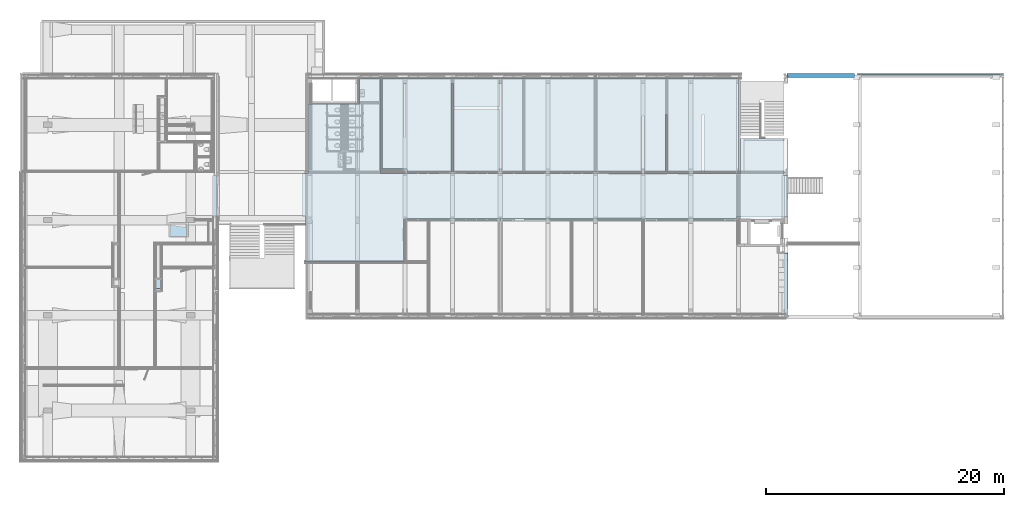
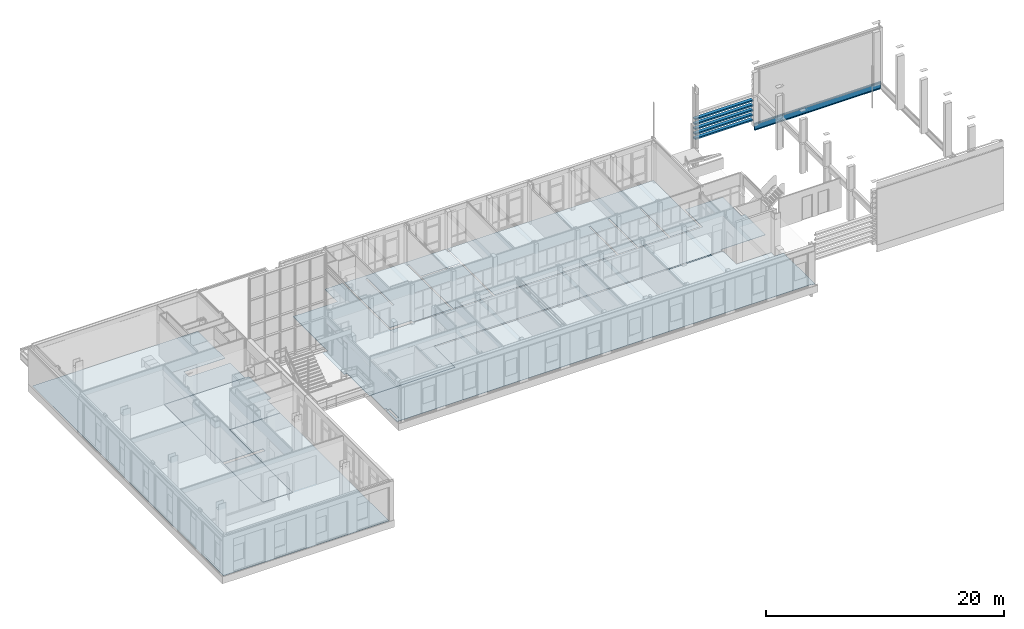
# One storey, part 22 of 94: 6 beams, 5 slabs, 4 openings.
"""IFC2X3 building model written with IfcOpenShell, lengths in millimetres."""

from ifc_helpers import new_model, entity, si_unit, converted_unit, derived_unit, money_unit, direction, frame, origin_with_axes, place, context, subcontext, project, spatial, faceted_brep, material, type_object, element, save


model = new_model("IFC2X3")

# Units and contexts
model_context = context("Model", 3, precision=0.01, world=origin_with_axes(), true_north=direction((0.0, 1.0)))
body_context = subcontext(model_context, "Body", "Model", "MODEL_VIEW")
ifc_project = project(units=[si_unit("LENGTHUNIT", "METRE", prefix="MILLI"), si_unit("AREAUNIT", "SQUARE_METRE"), si_unit("VOLUMEUNIT", "CUBIC_METRE"), converted_unit("PLANEANGLEUNIT", "DEGREE", entity("IfcPlaneAngleMeasure", 0.0174532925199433), si_unit("PLANEANGLEUNIT", "RADIAN"), dimensions=[0, 0, 0, 0, 0, 0, 0]), money_unit("EUR"), converted_unit("TIMEUNIT", "Year", entity("IfcTimeMeasure", 31557600.0), si_unit("TIMEUNIT", "SECOND"), dimensions=[0, 0, 1, 0, 0, 0, 0]), si_unit("MASSUNIT", "GRAM", prefix="KILO"), si_unit("THERMODYNAMICTEMPERATUREUNIT", "DEGREE_CELSIUS"), si_unit("LUMINOUSINTENSITYUNIT", "LUMEN"), si_unit("ENERGYUNIT", "JOULE", prefix="MEGA"), derived_unit("THERMALCONDUCTANCEUNIT", [(si_unit("POWERUNIT", "WATT"), 1), (si_unit("LENGTHUNIT", "METRE"), -1), (si_unit("THERMODYNAMICTEMPERATUREUNIT", "KELVIN"), -1)]), derived_unit("SPECIFICHEATCAPACITYUNIT", [(si_unit("ENERGYUNIT", "JOULE"), 1), (si_unit("MASSUNIT", "GRAM", prefix="KILO"), -1), (si_unit("THERMODYNAMICTEMPERATUREUNIT", "KELVIN"), -1)]), derived_unit("MASSDENSITYUNIT", [(si_unit("MASSUNIT", "GRAM", prefix="KILO"), 1), (si_unit("VOLUMEUNIT", "CUBIC_METRE"), -1)])], contexts=[model_context])

# Site, building, storey
site_placement = place(None, origin_with_axes())
site = spatial("IfcSite", under=ifc_project, at=site_placement, Name="<site naam>", CompositionType="ELEMENT")
building_placement = place(site_placement, origin_with_axes())
building = spatial("IfcBuilding", under=site, at=building_placement, Name="<Naam gebouw>", CompositionType="ELEMENT")
storey_placement = place(building_placement, frame((0.0, 0.0, 4250.0), z_axis=(0.0, 0.0, 1.0), x_axis=(1.0, 0.0, 0.0)))
storey = spatial("IfcBuildingStorey", under=building, at=storey_placement, Name="01 1e verdieping", CompositionType="ELEMENT", Elevation=4250.0)

# Beams
ifc_material_1 = material(Name="beton")
beam_type_1 = type_object("IfcBeamType", Name="beton 335 x 150", PredefinedType="BEAM")
beam_1_placement = place(storey_placement, frame((52105.00000000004, 20324.9999975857, 4625.0), z_axis=(0.0, 0.0, 1.0), x_axis=(0.0, -1.0, 0.0)))
element("IfcBeam", 1, at=beam_1_placement, inside=storey, type_object=beam_type_1, material=ifc_material_1, Name="41_Balk_beton", ObjectType="BEAM", context=body_context, shape_type="Brep", body=[
    faceted_brep([(217.3253485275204, 70.00000000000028, 150.0000000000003), (325.0000821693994, 70.00000000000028, 150.0000000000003), (325.0000821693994, 0.0, 150.0000000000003), (335.0000000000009, 0.0, 150.0000000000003), (335.0000000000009, 5640.499069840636, 150.0000000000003), (0.0, 5640.499069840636, 150.0000000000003), (0.0, 0.0, 150.0000000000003), (217.3253485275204, 0.0, 150.0000000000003), (325.0000821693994, 70.00000000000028, 0.0), (217.3253485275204, 70.00000000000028, 0.0), (325.0000821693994, 0.0, 0.0), (335.0000000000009, 0.0, 0.0), (335.0000000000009, 5640.499069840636, 0.0), (0.0, 5640.499069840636, 0.0), (0.0, 0.0, 0.0), (217.3253485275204, 0.0, 0.0)], [[[0, 1, 2, 3, 4, 5, 6, 7]], [[8, 1, 0, 9]], [[10, 2, 1, 8]], [[3, 2, 10, 11]], [[3, 11, 12, 4]], [[4, 12, 13, 5]], [[14, 6, 5, 13]], [[14, 15, 7, 6]], [[9, 0, 7, 15]], [[8, 9, 15, 14, 13, 12, 11, 10]]]),
])
for number, where, z_axis, x_axis, name in (
    (2, (52105.00000000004, 20324.9999975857, 3625.0), (0.0, 0.0, 1.0), (0.0, -1.0, 0.0), "41_Balk_beton"),
    (3, (52105.00000000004, 20324.9999975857, 3125.0), (0.0, 0.0, 1.0), (0.0, -1.0, 0.0), "41_Balk_beton"),
):
    element("IfcBeam", number, at=place(storey_placement, frame(where, z_axis=z_axis, x_axis=x_axis)), inside=storey, type_object=beam_type_1, material=ifc_material_1, Name=name, ObjectType="BEAM", context=body_context, shape_type="Brep", body=[
        faceted_brep([(217.3255014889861, 70.00002419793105, 150.0000000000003), (324.999975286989, 70.00002419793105, 150.0000000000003), (324.999975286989, 0.0, 150.0000000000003), (335.0000000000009, 0.0, 150.0000000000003), (335.0000000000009, 5640.499069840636, 150.0000000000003), (0.0, 5640.499069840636, 150.0000000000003), (0.0, 0.0, 150.0000000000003), (217.3255014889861, 0.0, 150.0000000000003), (324.999975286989, 70.00002419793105, 0.0), (217.3255014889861, 70.00002419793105, 0.0), (324.999975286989, 0.0, 0.0), (335.0000000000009, 0.0, 0.0), (335.0000000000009, 5640.499069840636, 0.0), (0.0, 5640.499069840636, 0.0), (0.0, 0.0, 0.0), (217.3255014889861, 0.0, 0.0)], [[[0, 1, 2, 3, 4, 5, 6, 7]], [[8, 1, 0, 9]], [[10, 2, 1, 8]], [[3, 2, 10, 11]], [[3, 11, 12, 4]], [[4, 12, 13, 5]], [[14, 6, 5, 13]], [[14, 15, 7, 6]], [[9, 0, 7, 15]], [[8, 9, 15, 14, 13, 12, 11, 10]]]),
    ])
beam_2_placement = place(storey_placement, frame((52105.00000000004, 20324.9999975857, 4125.0), z_axis=(0.0, 0.0, 1.0), x_axis=(0.0, -1.0, 0.0)))
element("IfcBeam", 4, at=beam_2_placement, inside=storey, type_object=beam_type_1, material=ifc_material_1, Name="41_Balk_beton", ObjectType="BEAM", context=body_context, shape_type="Brep", body=[
    faceted_brep([(217.3253485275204, 70.00000000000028, 150.0000000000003), (325.0000821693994, 70.00000000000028, 150.0000000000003), (325.0000821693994, 0.0, 150.0000000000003), (335.0000000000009, 0.0, 150.0000000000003), (335.0000000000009, 5640.499069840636, 150.0000000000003), (0.0, 5640.499069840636, 150.0000000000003), (0.0, 0.0, 150.0000000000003), (217.3253485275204, 0.0, 150.0000000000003), (325.0000821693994, 70.00000000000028, 125.0), (217.3253485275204, 70.00000000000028, 125.0), (325.0000821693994, 0.0, 125.0), (217.3253485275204, 0.0, 125.0), (0.0, 0.0, 0.0), (335.0000000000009, 0.0, 0.0), (335.0000000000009, 5640.499069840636, 0.0), (0.0, 5640.499069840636, 0.0)], [[[0, 1, 2, 3, 4, 5, 6, 7]], [[8, 1, 0, 9]], [[10, 2, 1, 8]], [[10, 11, 7, 6, 12, 13, 3, 2]], [[3, 13, 14, 4]], [[4, 14, 15, 5]], [[12, 6, 5, 15]], [[9, 0, 7, 11]], [[9, 11, 10, 8]], [[13, 12, 15, 14]]]),
])
beam_3_placement = place(storey_placement, frame((52105.00000000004, 20324.9999975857, 2625.0), z_axis=(0.0, 0.0, 1.0), x_axis=(0.0, -1.0, 0.0)))
element("IfcBeam", 5, at=beam_3_placement, inside=storey, type_object=beam_type_1, material=ifc_material_1, Name="41_Balk_beton", ObjectType="BEAM", context=body_context, shape_type="Brep", body=[
    faceted_brep([(217.3255014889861, 70.00002419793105, 150.0000000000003), (324.999975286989, 70.00002419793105, 150.0000000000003), (324.999975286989, 0.0, 150.0000000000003), (335.0000000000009, 0.0, 150.0000000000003), (335.0000000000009, 5640.499069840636, 150.0000000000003), (0.0, 5640.499069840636, 150.0000000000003), (0.0, 0.0, 150.0000000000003), (217.3255014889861, 0.0, 150.0000000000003), (324.999975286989, 70.00002419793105, 0.0), (217.3255014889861, 70.00002419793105, 0.0), (324.999975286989, 0.0, 0.0), (335.0000000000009, 0.0, 0.0), (335.0000000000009, 5640.499069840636, 0.0), (0.0, 5640.499069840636, 0.0), (0.0, 0.0, 0.0), (217.3255014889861, 0.0, 0.0)], [[[0, 1, 2, 3, 4, 5, 6, 7]], [[8, 1, 0, 9]], [[10, 2, 1, 8]], [[3, 2, 10, 11]], [[3, 11, 12, 4]], [[4, 12, 13, 5]], [[14, 6, 5, 13]], [[14, 15, 7, 6]], [[9, 0, 7, 15]], [[8, 9, 15, 14, 13, 12, 11, 10]]]),
])
ifc_material_2 = material(Name="beton_gewapend_prefab")
beam_type_2 = type_object("IfcBeamType", Name="Betonbanden 160 x 760", PredefinedType="BEAM")
beam_4_placement = place(storey_placement, frame((58000.00000000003, 20265.00000134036, 2145.0), z_axis=(0.0, 0.0, 1.0), x_axis=(0.0, -1.0, 0.0)))
element("IfcBeam", 6, at=beam_4_placement, inside=storey, type_object=beam_type_2, material=ifc_material_2, Name="41_Balk_Betonbanden", ObjectType="BEAM", context=body_context, shape_type="Brep", body=[
    faceted_brep([(-59.99999757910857, 0.0, -30.00000230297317), (-59.99999757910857, 12309.99999757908, -30.00000230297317), (-59.99999757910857, 12309.99999757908, -759.9999375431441), (-59.99999757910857, 0.0, -759.9999375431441), (60.00000030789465, 0.0, -30.00000230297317), (60.00000030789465, 12189.99999969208, -30.00000230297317), (60.00000030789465, 12189.99999969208, 0.0), (100.0000071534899, 12149.99999284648, 0.0), (100.0000071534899, 12149.99999284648, -100.0000001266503), (-4.298055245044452e-06, 12250.00000429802, -100.0000001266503), (-4.298055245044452e-06, 12250.00000429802, -690.0000385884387), (29.99999800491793, 12220.00000199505, -690.0000385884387), (29.99999800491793, 12220.00000199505, -660.0000280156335), (60.0000003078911, 12189.99999969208, -660.0000280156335), (60.0000003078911, 12189.99999969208, -759.9999375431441), (-4.298055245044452e-06, 12250.00000429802, -759.9999375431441), (-4.298055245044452e-06, 12250.00000429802, -730.0000145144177), (-29.99999527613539, 12279.99999527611, -730.0000145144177), (-29.99999527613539, 12279.99999527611, -759.9999375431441), (-29.99999527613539, 0.0, -759.9999375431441), (-29.99999527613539, 0.0, -730.0000145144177), (-4.298055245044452e-06, 0.0, -730.0000145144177), (-4.298055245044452e-06, 0.0, -759.9999375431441), (60.00000030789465, 0.0, -759.9999375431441), (60.00000030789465, 0.0, -660.0000280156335), (29.99999800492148, 0.0, -660.0000280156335), (29.99999800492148, 0.0, -690.0000385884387), (-4.298055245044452e-06, 0.0, -690.0000385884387), (-4.298051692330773e-06, 0.0, -100.0000001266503), (100.0000071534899, 0.0, -100.0000001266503), (100.0000071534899, 0.0, 0.0), (60.00000030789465, 0.0, 0.0)], [[[0, 1, 2, 3]], [[4, 5, 1, 0]], [[2, 1, 5, 6, 7, 8, 9, 10, 11, 12, 13, 14, 15, 16, 17, 18]], [[3, 2, 18, 19]], [[4, 0, 3, 19, 20, 21, 22, 23, 24, 25, 26, 27, 28, 29, 30, 31]], [[31, 6, 5, 4]], [[30, 7, 6, 31]], [[29, 8, 7, 30]], [[28, 9, 8, 29]], [[27, 10, 9, 28]], [[26, 11, 10, 27]], [[25, 12, 11, 26]], [[24, 13, 12, 25]], [[23, 14, 13, 24]], [[22, 15, 14, 23]], [[21, 16, 15, 22]], [[20, 17, 16, 21]], [[19, 18, 17, 20]]]),
])

# Slab, openings
ifc_material_3 = material(Name="isolatie_xps_zwevende_dekvloer")
slab_type_1 = type_object("IfcSlabType", Name="isolatie_xps_zwevende_dekvloer 30", PredefinedType="NOTDEFINED")
slab_1_placement = place(storey_placement, frame((11735.50000000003, 4524.999967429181, 0.0), z_axis=(0.0, 0.0, 1.0), x_axis=(1.0, 0.0, 0.0)))
slab_1 = element("IfcSlab", 7, at=slab_1_placement, inside=storey, type_object=slab_type_1, material=ifc_material_3, Name="23_Vloer_isolatie_xps_zwevende_dekvloer", PredefinedType="NOTDEFINED", context=body_context, shape_type="Brep", body=[
    faceted_brep([(187.0692695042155, -2377.009194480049, -30.00000000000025), (167.5223711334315, -2377.009194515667, -30.00000000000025), (167.5223711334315, -2377.009194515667, 0.0), (187.0692695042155, -2377.009194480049, 0.0), (0.0, -2609.512267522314, -30.00000000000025), (167.5223711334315, -2609.512267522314, -30.00000000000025), (187.0692751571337, -2629.059176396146, -30.00000000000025), (187.0223627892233, -2629.012263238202, -30.00000000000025), (0.0, -2629.012263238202, -30.00000000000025), (167.5223711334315, -2609.512267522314, 0.0), (0.0, -2609.512267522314, 0.0), (0.0, -2629.012263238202, 0.0), (187.0223627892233, -2629.012263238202, 0.0), (187.0692751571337, -2629.059176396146, 0.0)], [[[0, 1, 2, 3]], [[4, 5, 1, 0, 6, 7, 8]], [[5, 9, 2, 1]], [[2, 9, 10, 11, 12, 13, 3]], [[0, 3, 13, 6]], [[4, 10, 9, 5]], [[7, 6, 13, 12]], [[7, 12, 11, 8]], [[11, 10, 4, 8]]]),
    faceted_brep([(133.5223609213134, -2357.544208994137, 0.0), (168.4959369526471, -2357.544209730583, 0.0), (168.4959369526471, -2376.009317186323, 0.0), (188.0223640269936, -2376.009317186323, 0.0), (188.0223640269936, -2630.012268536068, 0.0), (0.0, -2630.012268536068, 0.0), (0.0, -4450.016858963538, 0.0), (40168.99999999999, -4450.016858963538, 0.0), (40168.99999999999, -4524.499967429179, 0.0), (40438.99999999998, -4524.499967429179, 0.0), (40438.99999999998, 47.5000325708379, 0.0), (40399.5, 47.5000325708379, 0.0), (40399.5, 160.0000325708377, 0.0), (40438.99999999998, 160.0000325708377, 0.0), (40438.99999999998, 703.5000311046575, 0.0), (39546.99999999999, 703.5000311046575, 0.0), (39546.99999999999, 1266.000031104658, 0.0), (36189.49999999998, 1266.000031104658, 0.0), (36189.49999999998, 3446.000032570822, 0.0), (8189.499999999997, 3446.000032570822, 0.0), (8189.499999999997, 0.0, 0.0), (0.0, 0.0, 0.0), (0.0, -2371.009317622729, 0.0), (133.5223609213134, -2371.009318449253, 0.0), (199.5000377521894, -2569.999989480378, 0.0), (414.5000377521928, -2569.999989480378, 0.0), (414.5000377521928, -3974.999901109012, 0.0), (199.5000377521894, -3974.999901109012, 0.0), (133.5223609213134, -2357.544208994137, -30.00000000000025), (168.4959369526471, -2357.544209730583, -30.00000000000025), (168.4959369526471, -2376.009317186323, -30.00000000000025), (188.0223640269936, -2376.009317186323, -30.00000000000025), (188.0223640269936, -2630.012268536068, -30.00000000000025), (0.0, -2630.012268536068, -30.00000000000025), (0.0, -4450.016858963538, -30.00000000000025), (40168.99999999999, -4450.016858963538, -30.00000000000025), (40168.99999999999, -4524.499967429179, -30.00000000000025), (40438.99999999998, -4524.499967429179, -30.00000000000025), (40438.99999999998, 47.5000325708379, -30.00000000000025), (40399.5, 47.5000325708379, -30.00000000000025), (40399.5, 160.0000325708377, -30.00000000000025), (40438.99999999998, 160.0000325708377, -30.00000000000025), (40438.99999999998, 703.5000311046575, -30.00000000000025), (39546.99999999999, 703.5000311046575, -30.00000000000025), (39546.99999999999, 1266.000031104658, -30.00000000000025), (36189.49999999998, 1266.000031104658, -30.00000000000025), (36189.49999999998, 3446.000032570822, -30.00000000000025), (8189.499999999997, 3446.000032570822, -30.00000000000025), (8189.499999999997, 0.0, -30.00000000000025), (0.0, 0.0, -30.00000000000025), (0.0, -2371.009317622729, -30.00000000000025), (133.5223609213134, -2371.009318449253, -29.99999999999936), (199.5000377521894, -2569.999989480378, -30.00000000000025), (414.5000377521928, -2569.999989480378, -30.00000000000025), (414.5000377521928, -3974.999901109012, -30.00000000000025), (199.5000377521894, -3974.999901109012, -30.00000000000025)], [[[0, 1, 2, 3, 4, 5, 6, 7, 8, 9, 10, 11, 12, 13, 14, 15, 16, 17, 18, 19, 20, 21, 22, 23], [24, 25, 26, 27]], [[0, 28, 29, 1]], [[30, 2, 1, 29]], [[31, 3, 2, 30]], [[32, 4, 3, 31]], [[5, 4, 32, 33]], [[6, 5, 33, 34]], [[35, 7, 6, 34]], [[36, 8, 7, 35]], [[37, 9, 8, 36]], [[9, 37, 38, 10]], [[38, 39, 11, 10]], [[40, 12, 11, 39]], [[12, 40, 41, 13]], [[42, 14, 13, 41]], [[43, 15, 14, 42]], [[44, 16, 15, 43]], [[45, 17, 16, 44]], [[46, 18, 17, 45]], [[47, 19, 18, 46]], [[48, 20, 19, 47]], [[49, 21, 20, 48]], [[49, 50, 22, 21]], [[50, 51, 23, 22]], [[28, 0, 23, 51]], [[24, 52, 53, 25]], [[53, 54, 26, 25]], [[55, 27, 26, 54]], [[55, 52, 24, 27]], [[29, 28, 51, 50, 49, 48, 47, 46, 45, 44, 43, 42, 41, 40, 39, 38, 37, 36, 35, 34, 33, 32, 31, 30], [55, 54, 53, 52]]]),
])
opening_1_placement = place(slab_1_placement, frame((-11735.50000000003, -4524.999967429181, -4250.0), z_axis=(0.0, 0.0, 1.0), x_axis=(1.0, 0.0, 0.0)))
element("IfcOpeningElement", 8, at=opening_1_placement, cuts=slab_1, Name="23_Opening_", context=body_context, shape_type="Brep", body=[
    faceted_brep([(12175.00000000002, 17899.99999999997, 4189.999999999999), (13075.00000000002, 17899.99999999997, 4189.999999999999), (13075.00000000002, 17899.99999999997, 4279.999999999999), (12175.00000000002, 17899.99999999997, 4279.999999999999), (12175.00000000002, 19399.99999999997, 4189.999999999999), (13075.00000000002, 19399.99999999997, 4189.999999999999), (13075.00000000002, 19399.99999999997, 4279.999999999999), (12175.00000000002, 19399.99999999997, 4279.999999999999)], [[[0, 1, 2, 3]], [[0, 4, 5, 1]], [[1, 5, 6, 2]], [[3, 2, 6, 7]], [[4, 0, 3, 7]], [[5, 4, 7, 6]]]),
])
opening_2_placement = place(slab_1_placement, frame((-11735.50000000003, -4524.999967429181, -4250.0), z_axis=(0.0, 0.0, 1.0), x_axis=(1.0, 0.0, 0.0)))
element("IfcOpeningElement", 9, at=opening_2_placement, cuts=slab_1, Name="23_Opening_", context=body_context, shape_type="Brep", body=[
    faceted_brep([(13675.00355938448, 17899.99999999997, 4189.999999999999), (14575.00355938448, 17899.99999999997, 4189.999999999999), (14575.00355938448, 17899.99999999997, 4279.999999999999), (13675.00355938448, 17899.99999999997, 4279.999999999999), (13675.00355938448, 19399.99999999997, 4189.999999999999), (14575.00355938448, 19399.99999999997, 4189.999999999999), (14575.00355938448, 19399.99999999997, 4279.999999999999), (13675.00355938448, 19399.99999999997, 4279.999999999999)], [[[0, 1, 2, 3]], [[0, 4, 5, 1]], [[1, 5, 6, 2]], [[3, 2, 6, 7]], [[4, 0, 3, 7]], [[5, 4, 7, 6]]]),
])

# Slabs
slab_2_placement = place(storey_placement, frame((18074.93840291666, 19924.99999617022, -30.00000000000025), z_axis=(0.0, 0.0, 1.0), x_axis=(1.0, 0.0, 0.0)))
element("IfcSlab", 10, at=slab_2_placement, inside=storey, type_object=slab_type_1, material=ifc_material_3, Name="23_Vloer_isolatie_xps_zwevende_dekvloer", PredefinedType="NOTDEFINED", context=body_context, shape_type="Brep", body=[
    faceted_brep([(9850.06159708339, -7895.999996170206, 0.0), (9850.06159708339, -2587.16937128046, 0.0), (9850.06159708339, -2587.16937128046, 30.00000000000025), (9850.06159708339, -7895.999996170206, 30.00000000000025), (6000.061597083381, -7895.999996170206, 0.0), (6000.061597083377, -2587.16937128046, 0.0), (6000.061597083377, -2587.16937128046, 30.00000000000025), (6000.061597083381, -7895.999996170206, 30.00000000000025)], [[[0, 1, 2, 3]], [[4, 5, 1, 0]], [[5, 6, 2, 1]], [[3, 2, 6, 7]], [[3, 7, 4, 0]], [[7, 6, 5, 4]]]),
    faceted_brep([(10000.06159708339, -7895.999996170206, 30.00000000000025), (21850.06159708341, -7895.999996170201, 30.00000000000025), (21850.06159708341, -3200.050164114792, 30.00000000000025), (22000.06159708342, -3200.050164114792, 30.00000000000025), (22000.06159708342, -7895.999996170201, 30.00000000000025), (23800.06159708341, -7895.999996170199, 30.00000000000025), (23800.06159708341, -3050.050161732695, 30.00000000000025), (23950.06159708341, -3050.050161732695, 30.00000000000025), (23950.06159708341, -7895.999996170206, 30.00000000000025), (26870.06162211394, -7895.999996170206, 30.00000000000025), (26870.06162211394, -3050.050144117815, 30.00000000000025), (27020.06162211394, -3050.050144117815, 30.00000000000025), (27020.06162211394, -7895.999996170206, 30.00000000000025), (29940.06159708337, -7895.999996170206, 30.00000000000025), (29940.06159708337, -46.99999617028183, 30.00000000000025), (10000.06159708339, -46.99999617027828, 30.00000000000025), (10000.06159708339, -7895.999996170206, 0.0), (21850.06159708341, -7895.999996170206, 0.0), (21850.06159708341, -3200.050164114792, 0.0), (22000.06159708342, -3200.050164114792, 0.0), (22000.06159708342, -7895.999996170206, 0.0), (23800.06159708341, -7895.999996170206, 0.0), (23800.06159708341, -3050.050155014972, 0.0), (23950.06159708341, -3050.050155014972, 0.0), (23950.06159708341, -7895.999996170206, 0.0), (26870.06162211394, -7895.999996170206, 0.0), (26870.06162211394, -3050.050140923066, 0.0), (27020.06162211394, -3050.050140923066, 0.0), (27020.06162211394, -7895.999996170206, 0.0), (29940.06159708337, -7895.999996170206, 0.0), (29940.06159708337, -46.99999617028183, 0.0), (10000.06159708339, -46.99999617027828, 0.0)], [[[0, 1, 2, 3, 4, 5, 6, 7, 8, 9, 10, 11, 12, 13, 14, 15]], [[16, 17, 1, 0]], [[18, 2, 1, 17]], [[19, 3, 2, 18]], [[20, 4, 3, 19]], [[5, 4, 20, 21]], [[22, 6, 5, 21]], [[23, 7, 6, 22]], [[24, 8, 7, 23]], [[24, 25, 9, 8]], [[26, 10, 9, 25]], [[26, 27, 11, 10]], [[28, 12, 11, 27]], [[13, 12, 28, 29]], [[29, 30, 14, 13]], [[31, 15, 14, 30]], [[0, 15, 31, 16]], [[19, 18, 17, 16, 31, 30, 29, 28, 27, 26, 25, 24, 23, 22, 21, 20]]]),
    faceted_brep([(9850.06159708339, -2437.169371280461, 0.0), (9850.06159708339, -46.99999617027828, 0.0), (9850.06159708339, -46.99999617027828, 30.00000000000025), (9850.06159708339, -2437.169371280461, 30.00000000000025), (0.0, -7649.999996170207, 0.0), (0.0, -46.99999617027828, 0.0), (6000.061597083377, -2437.169371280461, 0.0), (6000.061597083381, -474.9999961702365, 0.0), (5850.061597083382, -474.9999961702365, 0.0), (5850.061597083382, -7895.999996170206, 0.0), (2100.061597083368, -7895.999996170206, 0.0), (2100.061597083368, -7649.999996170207, 0.0), (1825.061596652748, -474.9999961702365, 0.0), (1825.061596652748, -4939.977004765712, 0.0), (1975.061596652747, -4939.977004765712, 0.0), (1975.061596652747, -474.9999961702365, 0.0), (0.0, -46.99999617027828, 30.00000000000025), (0.0, -7649.999996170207, 30.00000000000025), (2100.061597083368, -7649.999996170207, 30.00000000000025), (2100.061597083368, -7895.999996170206, 30.00000000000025), (5850.061597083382, -7895.999996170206, 30.00000000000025), (5850.061597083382, -474.9999961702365, 30.00000000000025), (6000.061597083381, -474.9999961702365, 30.00000000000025), (6000.061597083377, -2437.169371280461, 30.00000000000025), (1975.061596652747, -4939.977004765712, 30.00000000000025), (1825.061596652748, -4939.977004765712, 30.00000000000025), (1825.061596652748, -474.9999961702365, 30.00000000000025), (1975.061596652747, -474.9999961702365, 30.00000000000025)], [[[0, 1, 2, 3]], [[4, 5, 1, 0, 6, 7, 8, 9, 10, 11], [12, 13, 14, 15]], [[5, 16, 2, 1]], [[3, 2, 16, 17, 18, 19, 20, 21, 22, 23], [24, 25, 26, 27]], [[6, 0, 3, 23]], [[17, 16, 5, 4]], [[7, 6, 23, 22]], [[7, 22, 21, 8]], [[8, 21, 20, 9]], [[10, 9, 20, 19]], [[19, 18, 11, 10]], [[18, 17, 4, 11]], [[12, 26, 25, 13]], [[14, 13, 25, 24]], [[14, 24, 27, 15]], [[15, 27, 26, 12]]]),
])
slab_3_placement = place(storey_placement, frame((3884.044439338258, 19877.99999999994, 0.0), z_axis=(0.0, 0.0, 1.0), x_axis=(1.0, 0.0, 0.0)))
element("IfcSlab", 11, at=slab_3_placement, inside=storey, type_object=slab_type_1, material=ifc_material_3, Name="23_Vloer_isolatie_xps_zwevende_dekvloer", PredefinedType="NOTDEFINED", context=body_context, shape_type="Brep", body=[
    faceted_brep([(0.0, -13822.99999314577, 0.0), (-4934.044439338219, -13822.99999314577, 0.0), (-4934.044439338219, -17646.00087268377, 6.821796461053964e-07), (-3884.044518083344, -17646.00087268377, 9.313234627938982e-07), (-3884.044518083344, -17958.50087268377, 9.313234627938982e-07), (-4934.044439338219, -17958.50087268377, 6.821796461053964e-07), (-4934.044439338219, -24404.56515943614, 0.0), (-7809.04443933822, -24404.56515943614, 0.0), (-7809.04443933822, -7877.999999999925, 0.0), (0.0, -7877.999999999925, 0.0), (0.0, -5390.500030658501, 0.0), (-3984.065703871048, -5390.500030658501, 0.0), (-3984.065703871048, -4565.500005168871, 0.0), (0.0, -4565.500005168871, 0.0), (0.0, 0.0, 0.0), (-16049.04443218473, 0.0, 0.0), (-16049.04443218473, -32045.0317121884, 0.0), (0.0, -32045.0317121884, 0.0), (0.0, -13822.99999314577, -30.00000000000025), (-4934.044439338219, -13822.99999314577, -30.00000000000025), (-4934.044439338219, -17646.00087268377, -30.00000000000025), (-3884.044518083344, -17646.00087268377, -30.00000000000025), (-3884.044518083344, -17958.50087268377, -30.00000000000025), (-4934.044439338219, -17958.50087268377, -30.00000000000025), (-4934.044439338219, -24404.56515943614, -30.00000000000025), (-7809.04443933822, -24404.56515943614, -30.00000000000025), (-7809.04443933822, -7877.999999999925, -30.00000000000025), (0.0, -7877.999999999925, -30.00000000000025), (0.0, -5390.500030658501, -30.00000000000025), (-3984.065703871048, -5390.500030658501, -30.00000000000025), (-3984.065703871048, -4565.500005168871, -30.00000000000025), (0.0, -4565.500005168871, -30.00000000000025), (0.0, 0.0, -30.00000000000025), (-16049.04443218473, 0.0, -30.00000000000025), (-16049.04443218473, -32045.0317121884, -30.00000000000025), (0.0, -32045.0317121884, -30.00000000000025)], [[[0, 1, 2, 3, 4, 5, 6, 7, 8, 9, 10, 11, 12, 13, 14, 15, 16, 17]], [[18, 19, 1, 0]], [[2, 1, 19, 20]], [[2, 20, 21, 3]], [[21, 22, 4, 3]], [[4, 22, 23, 5]], [[23, 24, 6, 5]], [[24, 25, 7, 6]], [[25, 26, 8, 7]], [[26, 27, 9, 8]], [[27, 28, 10, 9]], [[28, 29, 11, 10]], [[29, 30, 12, 11]], [[30, 31, 13, 12]], [[31, 32, 14, 13]], [[32, 33, 15, 14]], [[33, 34, 16, 15]], [[34, 35, 17, 16]], [[35, 18, 0, 17]], [[24, 23, 22, 21, 20, 19, 18, 35, 34, 33, 32, 31, 30, 29, 28, 27, 26, 25]]]),
])

# Slab, openings
ifc_material_4 = material(Name="zandcementdeklvoer")
slab_type_2 = type_object("IfcSlabType", Name="zandcementdeklvoer 30", PredefinedType="NOTDEFINED")
slab_4_placement = place(storey_placement, frame((4207.073924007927, 11994.60127102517, -30.00000000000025), z_axis=(0.0, 0.0, 1.0), x_axis=(1.0, 0.0, 0.0)))
slab_4 = element("IfcSlab", 12, at=slab_4_placement, inside=storey, type_object=slab_type_2, material=ifc_material_4, Name="23_Vloer_zandcementdeklvoer", PredefinedType="NOTDEFINED", context=body_context, shape_type="Brep", body=[
    faceted_brep([(0.0, 0.0, 30.00000000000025), (-8132.072546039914, 0.0, 30.00000000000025), (-8132.073924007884, -9775.102143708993, 30.00000000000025), (-5257.073924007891, -9775.102143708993, 30.00000068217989), (-5257.073924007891, -5925.000000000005, 30.00000000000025), (-323.0294846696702, -5925.000000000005, 30.00000000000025), (-323.0294846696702, -3719.438644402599, 30.00000000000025), (72.97051533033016, -3719.438644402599, 30.00000000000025), (72.97051533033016, -74.99999999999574, 30.00000000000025), (0.0, -74.99999999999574, 30.00000000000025), (-8132.072546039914, 0.0, 0.0), (0.0, 0.0, 0.0), (-8132.073924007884, -9775.102143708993, 0.0), (-5257.073924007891, -9775.102143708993, 0.0), (-5257.073924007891, -5925.000000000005, 0.0), (-323.0294846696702, -5925.000000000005, 0.0), (-323.0294846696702, -3719.438644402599, 0.0), (72.97051533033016, -3719.438644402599, 0.0), (72.97051533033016, -74.99999999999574, 0.0), (0.0, -74.99999999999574, 0.0)], [[[0, 1, 2, 3, 4, 5, 6, 7, 8, 9]], [[10, 1, 0, 11]], [[1, 10, 12, 2]], [[2, 12, 13, 3]], [[14, 4, 3, 13]], [[15, 5, 4, 14]], [[16, 6, 5, 15]], [[17, 7, 6, 16]], [[18, 8, 7, 17]], [[19, 9, 8, 18]], [[11, 0, 9, 19]], [[15, 14, 13, 12, 10, 11, 19, 18, 17, 16]]]),
    faceted_brep([(-5257.073924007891, -16526.56515943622, 0.0), (-5257.073924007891, -10075.10214370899, 0.0), (-5257.073924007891, -10075.10214370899, 30.00000068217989), (-5257.073924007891, -16526.56515943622, 30.00000000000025), (-8132.072546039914, -16526.56515943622, 0.0), (-8132.073924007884, -10075.10214370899, 0.0), (-8132.073924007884, -10075.10214370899, 30.00000000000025), (-8132.072546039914, -16526.56515943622, 30.00000000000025)], [[[0, 1, 2, 3]], [[4, 5, 1, 0]], [[5, 6, 2, 1]], [[3, 2, 6, 7]], [[3, 7, 4, 0]], [[7, 6, 5, 4]]]),
])
opening_3_placement = place(slab_4_placement, frame((-4207.073924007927, -11994.60127102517, -4220.0), z_axis=(0.0, 0.0, 1.0), x_axis=(1.0, 0.0, 0.0)))
element("IfcOpeningElement", 13, at=opening_3_placement, cuts=slab_4, Name="23_Opening_", context=body_context, shape_type="Brep", body=[
    faceted_brep([(308.7943528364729, 14594.60124710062, 4189.999999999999), (1910.529484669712, 14594.60124710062, 4189.999999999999), (1910.529484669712, 14594.60124710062, 4279.999999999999), (308.7943528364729, 14594.60124710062, 4279.999999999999), (308.7943528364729, 15194.60126585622, 4189.999999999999), (1910.529484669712, 15194.60126585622, 4189.999999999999), (1910.529484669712, 15194.60126585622, 4279.999999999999), (308.7943528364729, 15194.60126585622, 4279.999999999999)], [[[0, 1, 2, 3]], [[0, 4, 5, 1]], [[1, 5, 6, 2]], [[3, 2, 6, 7]], [[4, 0, 3, 7]], [[5, 4, 7, 6]]]),
])
opening_4_placement = place(slab_4_placement, frame((-4207.073924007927, -11994.60127102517, -4220.0), z_axis=(0.0, 0.0, 1.0), x_axis=(1.0, 0.0, 0.0)))
element("IfcOpeningElement", 14, at=opening_4_placement, cuts=slab_4, Name="23_Opening_", context=body_context, shape_type="Brep", body=[
    faceted_brep([(2710.529484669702, 14594.60124710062, 4189.999999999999), (4310.573952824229, 14594.60124710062, 4189.999999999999), (4310.573952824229, 14594.60124710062, 4279.999999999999), (2710.529484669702, 14594.60124710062, 4279.999999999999), (2710.529484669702, 15194.60126585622, 4189.999999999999), (4310.573952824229, 15194.60126585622, 4189.999999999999), (4310.573952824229, 15194.60126585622, 4279.999999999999), (2710.529484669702, 15194.60126585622, 4279.999999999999)], [[[0, 1, 2, 3]], [[0, 4, 5, 1]], [[1, 5, 6, 2]], [[3, 2, 6, 7]], [[4, 0, 3, 7]], [[5, 4, 7, 6]]]),
])

# Slab
slab_5_placement = place(storey_placement, frame((11354.47051533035, 11925.00000000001, -30.00000000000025), z_axis=(0.0, 0.0, 1.0), x_axis=(1.0, 0.0, 0.0)))
element("IfcSlab", 15, at=slab_5_placement, inside=storey, type_object=slab_type_2, material=ifc_material_4, Name="23_Vloer_zandcementdeklvoer", PredefinedType="NOTDEFINED", context=body_context, shape_type="Brep", body=[
    faceted_brep([(0.0, -3644.601271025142, 30.00000000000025), (0.0, 0.0, 30.00000000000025), (0.0, 0.0, 0.0), (0.0, -3644.601271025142, 0.0), (510.0000000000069, 5824.999999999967, 30.00000000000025), (510.0000000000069, 0.0, 30.00000000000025), (270.0000000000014, -3644.601271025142, 30.00000000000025), (270.0000000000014, -7400.000032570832, 30.00000000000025), (8570.529484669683, -7400.000032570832, 30.00000000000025), (8570.529484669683, -3850.000000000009, 30.00000000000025), (36470.52948466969, -3850.000000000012, 30.00000000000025), (36470.52948466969, -3649.999999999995, 30.00000000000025), (40819.95950558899, -3649.999999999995, 30.00000000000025), (40819.95950558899, -200.0000000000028, 30.00000000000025), (40470.52948466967, -200.0000000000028, 30.00000000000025), (40470.52948466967, 2924.499999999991, 30.00000000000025), (36820.10733893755, 2924.499999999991, 30.00000000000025), (36820.10733893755, 0.0, 30.00000000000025), (6570.47148321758, 0.0, 30.00000000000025), (6570.47148321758, 7958.999999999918, 30.00000000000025), (4820.529484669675, 7958.999999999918, 30.00000000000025), (4820.529484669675, 5824.999999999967, 30.00000000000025), (510.0000000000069, 0.0, 0.0), (270.0000000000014, -3644.601271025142, 0.0), (510.0000000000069, 5824.999999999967, 0.0), (4820.529484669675, 5824.999999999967, 0.0), (4820.529484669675, 7958.999999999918, 0.0), (6570.47148321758, 7958.999999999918, 0.0), (6570.47148321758, 0.0, 0.0), (36820.10733893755, 0.0, 0.0), (36820.10733893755, 2924.499999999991, 0.0), (40470.52948466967, 2924.499999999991, 0.0), (40470.52948466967, -200.0000000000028, 0.0), (40819.95950558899, -200.0000000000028, 0.0), (40819.95950558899, -3649.999999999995, 0.0), (36470.52948466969, -3649.999999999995, 0.0), (36470.52948466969, -3850.000000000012, 0.0), (8570.529484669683, -3850.000000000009, 0.0), (8570.529484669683, -7400.000032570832, 0.0), (270.0000000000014, -7400.000032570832, 0.0)], [[[0, 1, 2, 3]], [[4, 5, 1, 0, 6, 7, 8, 9, 10, 11, 12, 13, 14, 15, 16, 17, 18, 19, 20, 21]], [[1, 5, 22, 2]], [[23, 3, 2, 22, 24, 25, 26, 27, 28, 29, 30, 31, 32, 33, 34, 35, 36, 37, 38, 39]], [[6, 0, 3, 23]], [[5, 4, 24, 22]], [[7, 6, 23, 39]], [[8, 7, 39, 38]], [[9, 8, 38, 37]], [[10, 9, 37, 36]], [[11, 10, 36, 35]], [[12, 11, 35, 34]], [[13, 12, 34, 33]], [[14, 13, 33, 32]], [[15, 14, 32, 31]], [[16, 15, 31, 30]], [[17, 16, 30, 29]], [[18, 17, 29, 28]], [[19, 18, 28, 27]], [[20, 19, 27, 26]], [[21, 20, 26, 25]], [[4, 21, 25, 24]]]),
])

save(model, "model.ifc")
